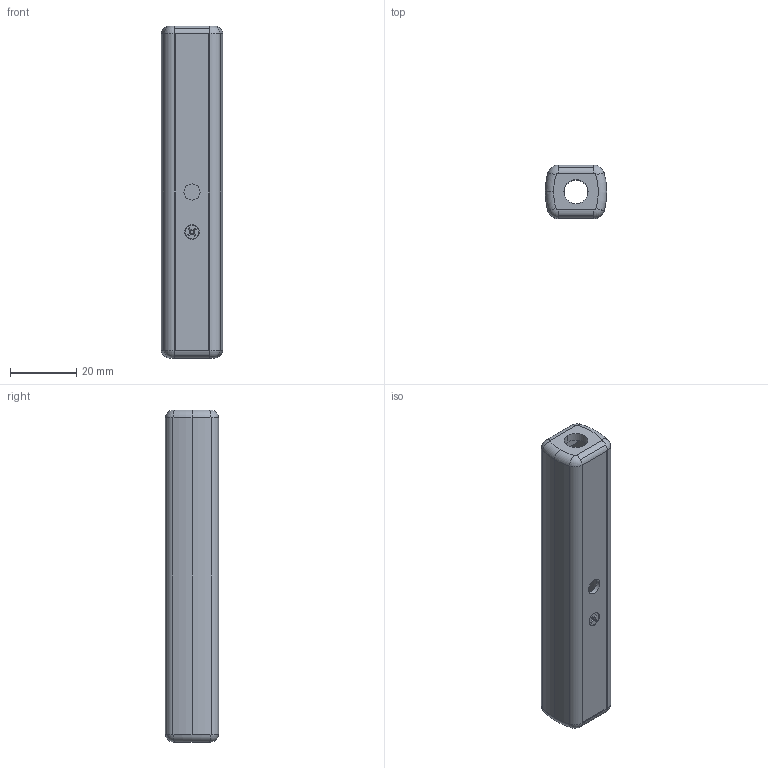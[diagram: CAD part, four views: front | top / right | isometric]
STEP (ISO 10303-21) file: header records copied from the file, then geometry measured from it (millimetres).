
FILE_DESCRIPTION (( 'STEP AP214' ), '1' );
FILE_NAME ('ICS4.STEP', '2024-02-05T18:57:13', ( '' ), ( '' ), 'SwSTEP 2.0', 'SolidWorks 2023', '' );
FILE_SCHEMA (( 'AUTOMOTIVE_DESIGN' ));
Length unit declared in the file: inch
Products named in the file (4): 098901_SIDE FINGERS; 91771A074_91771A074; ICS4; 098074_098900
Assembly tree (4 placements, depth 2):
  ICS4
    098074_098900
    098901_SIDE FINGERS  x2
    91771A074_91771A074
Bounding box: 18.54 x 16.05 x 100.06 mm (x, y, z)
Volume: 9939.8 mm3; surface area: 13444.4 mm2
Topology: 4 solids, 4 shells, 227 faces, 608 edges, 399 vertices
Faces by surface type: cylinder 108, plane 70, torus 26, cone 20, bspline 3
Entity records: 6490 total; most frequent: CARTESIAN_POINT 1940, DIRECTION 964, ORIENTED_EDGE 932, EDGE_CURVE 466, AXIS2_PLACEMENT_3D 381, VERTEX_POINT 307, CIRCLE 204, VECTOR 202
